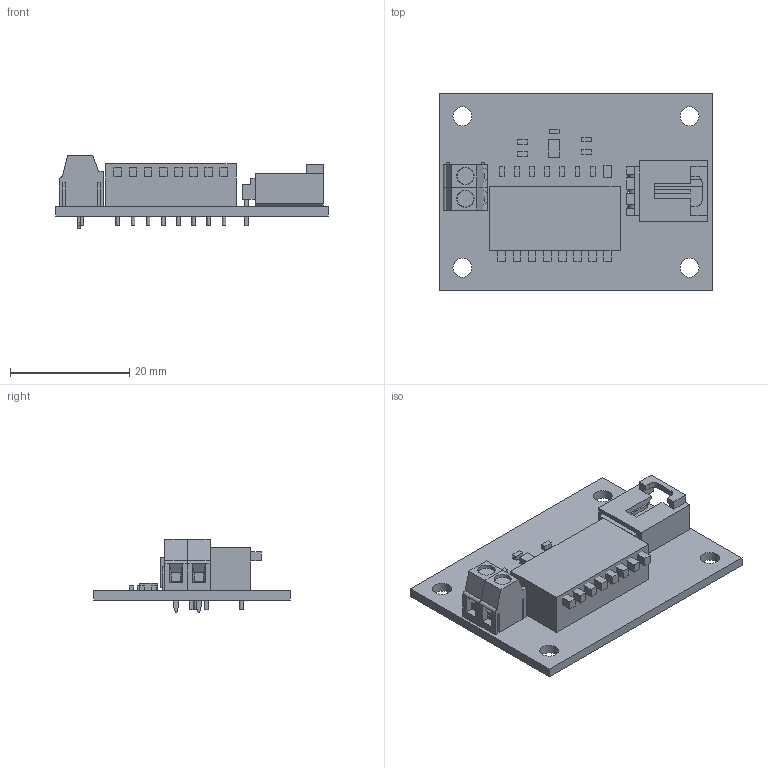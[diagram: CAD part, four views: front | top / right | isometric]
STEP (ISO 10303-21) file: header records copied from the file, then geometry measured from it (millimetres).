
FILE_DESCRIPTION(('Open CASCADE Model'),'2;1');
FILE_NAME('Open CASCADE Shape Model','2010-10-28T09:35:07',('Author'),( 'Open CASCADE'),'Open CASCADE STEP processor 6.2','Open CASCADE 6.2' ,'Unknown');
FILE_SCHEMA(('AUTOMOTIVE_DESIGN { 1 0 10303 214 1 1 1 1 }'));
Length unit declared in the file: millimetre
Products named in the file (41): PCB; Board; R5; 478788672; Extruded; U1; 478794176; R1; 478789824; R2; R10; 478792128; R9; R8; R7; R6; R3; R4; J3; 478779840; 478772448; Cylinder; 510553184; J1; 705530002; Open CASCADE STEP translator 6.2 141.14.1.1; Open CASCADE STEP translator 6.2 141.14.1.2; J2; 20020327-d02_asm; 20020327-D-LEM; 20020327-D-REM; 828468224; C1; C2; C3
Assembly tree (74 placements, depth 4):
  PCB
    Board
    R5
      478788672
        Extruded
    U1
      478794176
        Extruded
    R1
      478789824
        Extruded
    R2
      478789824
        Extruded
    R10
      478792128
        Extruded
    R9
      478788672
        Extruded
    R8
      478788672
        Extruded
    R7
      478788672
        Extruded
    R6
      478788672
        Extruded
    R3
      478788672
        Extruded
    R4
      478788672
        Extruded
    J3
      478779840
        Extruded
      478772448  x17
        Cylinder
      510553184  x8
        Extruded
    J1
      705530002
        Open CASCADE STEP translator 6.2 141.14.1.1
        Open CASCADE STEP translator 6.2 141.14.1.2
    J2
      20020327-d02_asm
        20020327-D-LEM
        20020327-D-REM  x2
      828468224
        Cylinder
    C1
      478789824
        Extruded
    C2
      478789824
        Extruded
    C3
      478789824
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Bounding box: 45.72 x 33.02 x 12.31 mm (x, y, z)
Volume: 4863.8 mm3; surface area: 6124.9 mm2
Topology: 49 solids, 49 shells, 580 faces, 1369 edges, 900 vertices
Faces by surface type: plane 491, cylinder 85, cone 4
Full cylindrical faces by diameter (mm): 0.6 x18, 0.965 x19, 1.321 x2, 3.175 x4
Entity records: 20893 total; most frequent: CARTESIAN_POINT 3735, DIRECTION 3122, LINE 2041, VECTOR 2041, ORIENTED_EDGE 1584, PCURVE 1584, DEFINITIONAL_REPRESENTATION 1584, EDGE_CURVE 792
